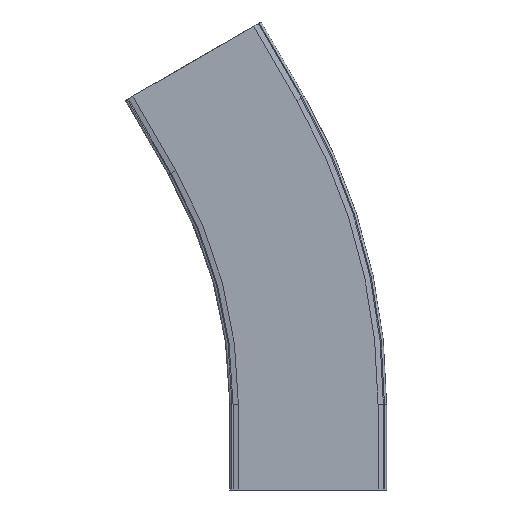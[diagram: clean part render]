
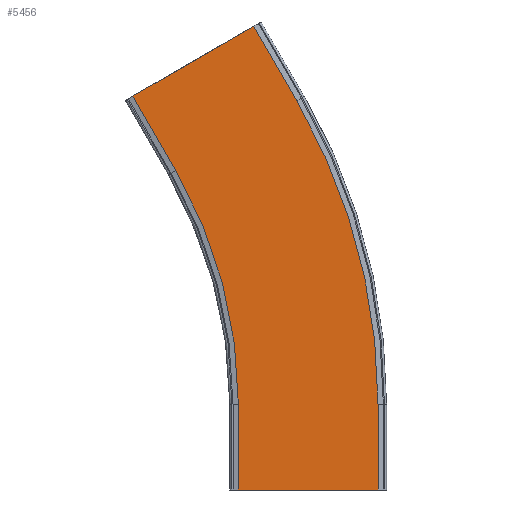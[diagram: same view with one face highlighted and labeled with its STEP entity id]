
A CAD part, front view. The second image highlights one B-rep face of the part: STEP entity #5456.
In plain terms, the highlighted planar face has unit normal (0, -1, 0).
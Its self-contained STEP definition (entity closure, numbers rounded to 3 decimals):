
#5213=CARTESIAN_POINT('',(104.,-74.,0.0));
#5214=VERTEX_POINT('',#5213);
#5221=CARTESIAN_POINT('',(-26.,-74.,0.0));
#5222=VERTEX_POINT('',#5221);
#5223=CARTESIAN_POINT('',(-26.,-74.,0.0));
#5224=DIRECTION('',(1.0,0.0,0.0));
#5225=VECTOR('',#5224,130.);
#5226=LINE('',#5223,#5225);
#5227=EDGE_CURVE('',#5222,#5214,#5226,.T.);
#5282=CARTESIAN_POINT('',(-26.,-74.,80.0));
#5283=VERTEX_POINT('',#5282);
#5292=CARTESIAN_POINT('',(-26.,-74.,0.0));
#5293=DIRECTION('',(0.0,0.0,1.0));
#5294=VECTOR('',#5293,80.0);
#5295=LINE('',#5292,#5294);
#5296=EDGE_CURVE('',#5222,#5283,#5295,.T.);
#5306=CARTESIAN_POINT('',(104.,-74.,80.0));
#5307=VERTEX_POINT('',#5306);
#5316=CARTESIAN_POINT('',(104.,-74.,0.0));
#5317=DIRECTION('',(0.0,0.0,1.0));
#5318=VECTOR('',#5317,80.0);
#5319=LINE('',#5316,#5318);
#5320=EDGE_CURVE('',#5214,#5307,#5319,.T.);
#5339=CARTESIAN_POINT('',(-84.279,-74.,297.5));
#5340=VERTEX_POINT('',#5339);
#5355=CARTESIAN_POINT('',(-461.,-74.,80.0));
#5356=DIRECTION('',(0.0,-1.0,0.0));
#5357=DIRECTION('',(1.0,0.0,0.0));
#5358=AXIS2_PLACEMENT_3D('',#5355,#5356,#5357);
#5359=CIRCLE('',#5358,435.);
#5360=EDGE_CURVE('',#5283,#5340,#5359,.T.);
#5414=CARTESIAN_POINT('',(199.204,-74.,66.493));
#5415=DIRECTION('',(0.0,-1.0,0.0));
#5416=DIRECTION('',(0.5,0.0,-0.866));
#5417=AXIS2_PLACEMENT_3D('',#5414,#5415,#5416);
#5418=PLANE('',#5417);
#5419=CARTESIAN_POINT('',(-11.696,-74.,431.782));
#5420=VERTEX_POINT('',#5419);
#5421=CARTESIAN_POINT('',(-124.279,-74.,366.782));
#5422=VERTEX_POINT('',#5421);
#5423=CARTESIAN_POINT('',(-11.696,-74.,431.782));
#5424=DIRECTION('',(-0.866,0.,-0.5));
#5425=VECTOR('',#5424,130.);
#5426=LINE('',#5423,#5425);
#5427=EDGE_CURVE('',#5420,#5422,#5426,.T.);
#5428=ORIENTED_EDGE('',*,*,#5427,.T.);
#5429=CARTESIAN_POINT('',(-84.279,-74.,297.5));
#5430=DIRECTION('',(-0.5,0.0,0.866));
#5431=VECTOR('',#5430,80.);
#5432=LINE('',#5429,#5431);
#5433=EDGE_CURVE('',#5340,#5422,#5432,.T.);
#5434=ORIENTED_EDGE('',*,*,#5433,.F.);
#5435=ORIENTED_EDGE('',*,*,#5360,.F.);
#5436=ORIENTED_EDGE('',*,*,#5296,.F.);
#5437=ORIENTED_EDGE('',*,*,#5227,.T.);
#5438=ORIENTED_EDGE('',*,*,#5320,.T.);
#5439=CARTESIAN_POINT('',(28.304,-74.,362.5));
#5440=VERTEX_POINT('',#5439);
#5441=CARTESIAN_POINT('',(-461.,-74.,80.0));
#5442=DIRECTION('',(0.0,-1.0,0.0));
#5443=DIRECTION('',(1.0,0.0,0.0));
#5444=AXIS2_PLACEMENT_3D('',#5441,#5442,#5443);
#5445=CIRCLE('',#5444,565.);
#5446=EDGE_CURVE('',#5307,#5440,#5445,.T.);
#5447=ORIENTED_EDGE('',*,*,#5446,.T.);
#5448=CARTESIAN_POINT('',(28.304,-74.,362.5));
#5449=DIRECTION('',(-0.5,0.0,0.866));
#5450=VECTOR('',#5449,80.);
#5451=LINE('',#5448,#5450);
#5452=EDGE_CURVE('',#5440,#5420,#5451,.T.);
#5453=ORIENTED_EDGE('',*,*,#5452,.T.);
#5454=EDGE_LOOP('',(#5428,#5434,#5435,#5436,#5437,#5438,#5447,#5453));
#5455=FACE_OUTER_BOUND('',#5454,.T.);
#5456=ADVANCED_FACE('',(#5455),#5418,.T.);
